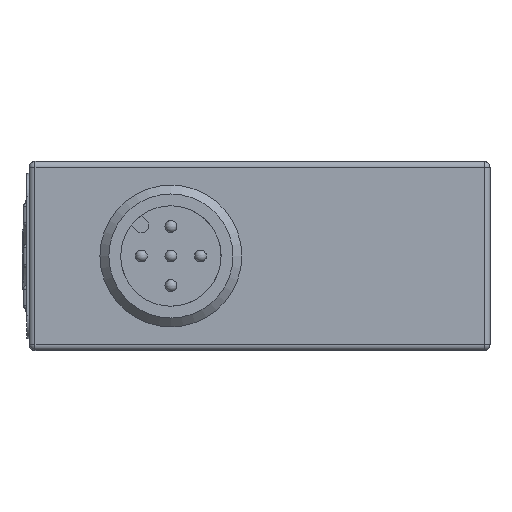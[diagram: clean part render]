
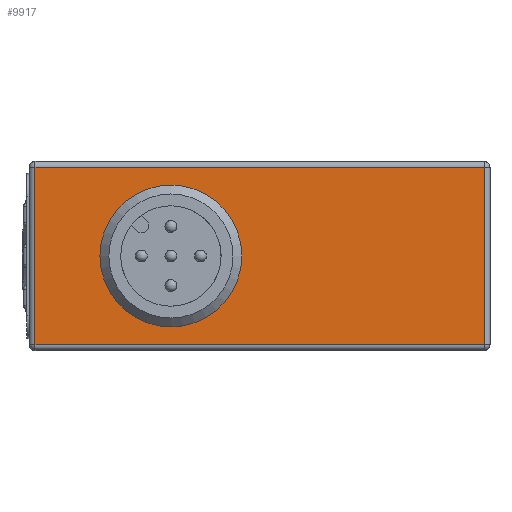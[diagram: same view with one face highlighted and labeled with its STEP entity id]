
A CAD part, left-side view. The second image highlights one B-rep face of the part: STEP entity #9917.
In plain terms, the highlighted planar face has unit normal (-1, 0, 0).
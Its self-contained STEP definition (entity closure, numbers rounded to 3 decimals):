
#4986=CARTESIAN_POINT('',(-64.677,15.769,14.));
#4987=VERTEX_POINT('',#4986);
#4988=CARTESIAN_POINT('',(-64.677,15.769,8.0));
#4989=DIRECTION('',(1.0,0.0,0.0));
#4990=DIRECTION('',(0.0,0.0,-1.0));
#4991=AXIS2_PLACEMENT_3D('',#4988,#4989,#4990);
#4992=CIRCLE('',#4991,6.);
#4993=EDGE_CURVE('',#4987,#4987,#4992,.T.);
#9212=CARTESIAN_POINT('',(-64.677,27.269,0.5));
#9213=VERTEX_POINT('',#9212);
#9221=CARTESIAN_POINT('',(-64.677,27.269,15.5));
#9222=VERTEX_POINT('',#9221);
#9223=CARTESIAN_POINT('',(-64.677,27.269,0.5));
#9224=DIRECTION('',(0.0,0.0,1.0));
#9225=VECTOR('',#9224,15.0);
#9226=LINE('',#9223,#9225);
#9227=EDGE_CURVE('',#9213,#9222,#9226,.T.);
#9405=CARTESIAN_POINT('',(-64.677,-10.731,0.5));
#9406=VERTEX_POINT('',#9405);
#9414=CARTESIAN_POINT('',(-64.677,-10.731,0.5));
#9415=DIRECTION('',(0.0,1.0,0.0));
#9416=VECTOR('',#9415,38.);
#9417=LINE('',#9414,#9416);
#9418=EDGE_CURVE('',#9406,#9213,#9417,.T.);
#9617=CARTESIAN_POINT('',(-64.677,-10.731,15.5));
#9618=VERTEX_POINT('',#9617);
#9626=CARTESIAN_POINT('',(-64.677,-10.731,15.5));
#9627=DIRECTION('',(0.0,0.0,-1.0));
#9628=VECTOR('',#9627,15.0);
#9629=LINE('',#9626,#9628);
#9630=EDGE_CURVE('',#9618,#9406,#9629,.T.);
#9898=CARTESIAN_POINT('',(-64.677,-11.231,0.0));
#9899=DIRECTION('',(-1.0,0.0,0.0));
#9900=DIRECTION('',(0.0,0.0,1.0));
#9901=AXIS2_PLACEMENT_3D('',#9898,#9899,#9900);
#9902=PLANE('',#9901);
#9903=ORIENTED_EDGE('',*,*,#9227,.F.);
#9904=ORIENTED_EDGE('',*,*,#9418,.F.);
#9905=ORIENTED_EDGE('',*,*,#9630,.F.);
#9906=CARTESIAN_POINT('',(-64.677,27.269,15.5));
#9907=DIRECTION('',(0.0,-1.0,0.0));
#9908=VECTOR('',#9907,38.);
#9909=LINE('',#9906,#9908);
#9910=EDGE_CURVE('',#9222,#9618,#9909,.T.);
#9911=ORIENTED_EDGE('',*,*,#9910,.F.);
#9912=EDGE_LOOP('',(#9903,#9904,#9905,#9911));
#9913=FACE_OUTER_BOUND('',#9912,.T.);
#9914=ORIENTED_EDGE('',*,*,#4993,.T.);
#9915=EDGE_LOOP('',(#9914));
#9916=FACE_BOUND('',#9915,.T.);
#9917=ADVANCED_FACE('',(#9913,#9916),#9902,.T.);
